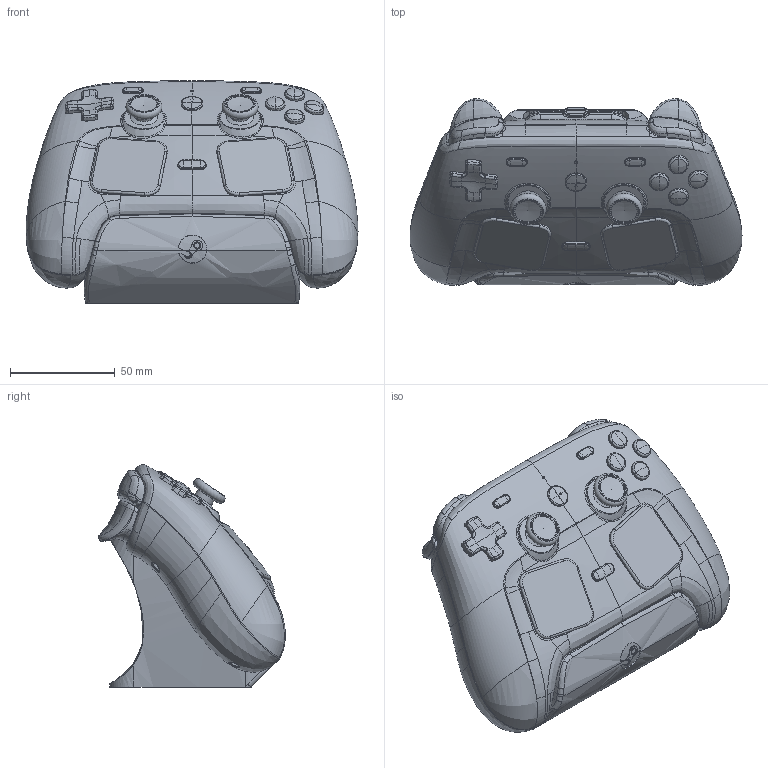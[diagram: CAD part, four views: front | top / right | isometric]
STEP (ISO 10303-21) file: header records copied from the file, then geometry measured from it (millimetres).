
FILE_DESCRIPTION(/* description */ (''),/* implementation_level */ '2;1');
FILE_NAME(/* name */ 'Steamdeck controller dock V1.01 - Solid.step',/* time_stamp */ '2026-05-17T17:48:06+01:00',/* author */ (''),/* organization */ (''),/* preprocessor_version */ 'ST-DEVELOPER v20.1',/* originating_system */ 'Autodesk Translation Framework v15.8.0.0',/* authorisation */ '');
FILE_SCHEMA (('AUTOMOTIVE_DESIGN { 1 0 10303 214 3 1 1 }'));
Products named in the file (3): Steamdeck controller dock; PUCK_SURFACES_FOR_PUBLIC; IBEX_SOLID
Assembly tree (2 placements, depth 2):
  Steamdeck controller dock
    PUCK_SURFACES_FOR_PUBLIC
    IBEX_SOLID
Bounding box: 158.75 x 89.21 x 106.44 mm (x, y, z)
Volume: 708348.4 mm3; surface area: 78491.5 mm2
Topology: 3 solids, 3 shells, 1084 faces, 2787 edges, 1699 vertices
Faces by surface type: bspline 741, plane 139, cylinder 85, cone 65, torus 44, sphere 10
Full cylindrical faces by diameter (mm): 1 x3, 1.5 x3, 2.385 x3, 2.585 x3, 9.5 x2
Entity records: 156285 total; most frequent: CARTESIAN_POINT 135159, ORIENTED_EDGE 5470, EDGE_CURVE 2735, DIRECTION 2579, VERTEX_POINT 1699, B_SPLINE_CURVE_WITH_KNOTS 1484, EDGE_LOOP 1126, FACE_OUTER_BOUND 1084
